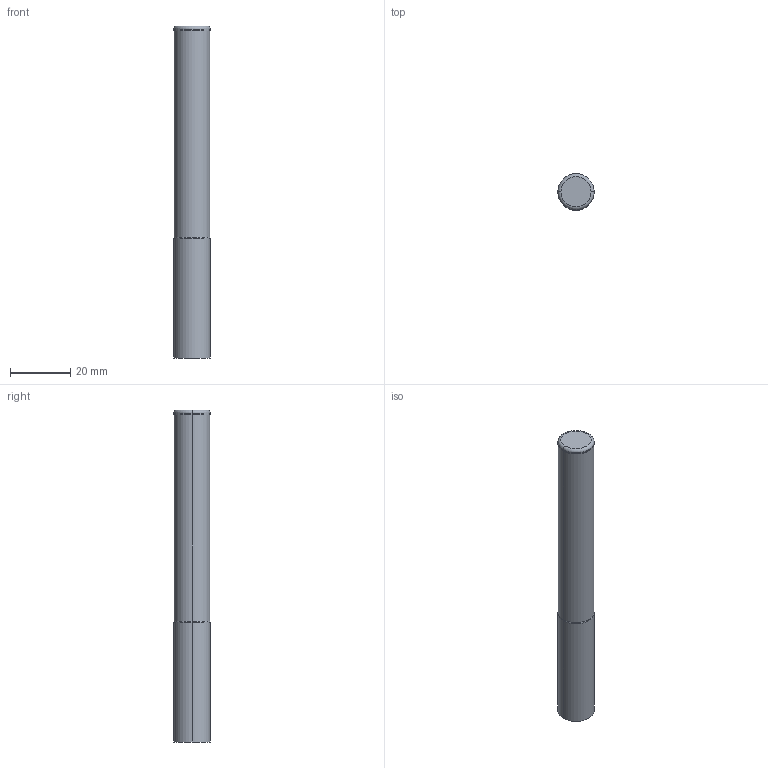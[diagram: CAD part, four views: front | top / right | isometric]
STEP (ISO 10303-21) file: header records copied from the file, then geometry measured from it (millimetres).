
FILE_DESCRIPTION(('STEP AP214'),'1');
FILE_NAME('cctmp_6A16593F-746B-49E8-9137-1C41ADEA361B_2020_10_01_08_16_24_0355..stp','2020-10-01T06:16:24',('Meusburger Georg GmbH & Co KG'),('CADClick - www.CADClick.com'),'Spatial InterOp 3D',' ','unknown authorization');
FILE_SCHEMA(('AUTOMOTIVE_DESIGN { 1 0 10303 214 1 1 1 1 }'));
Length unit declared in the file: millimetre
Products named in the file (1): WZF279967_12_70_1
Bounding box: 12 x 12 x 110 mm (x, y, z)
Volume: 12176.1 mm3; surface area: 4317.5 mm2
Topology: 1 solids, 1 shells, 13 faces, 24 edges, 14 vertices
Faces by surface type: cylinder 6, plane 3, cone 2, torus 2
Entity records: 454 total; most frequent: DIRECTION 68, CARTESIAN_POINT 52, ORIENTED_EDGE 48, AXIS2_PLACEMENT_3D 30, EDGE_CURVE 24, CIRCLE 16, STYLED_ITEM 14, PRESENTATION_STYLE_ASSIGNMENT 14
